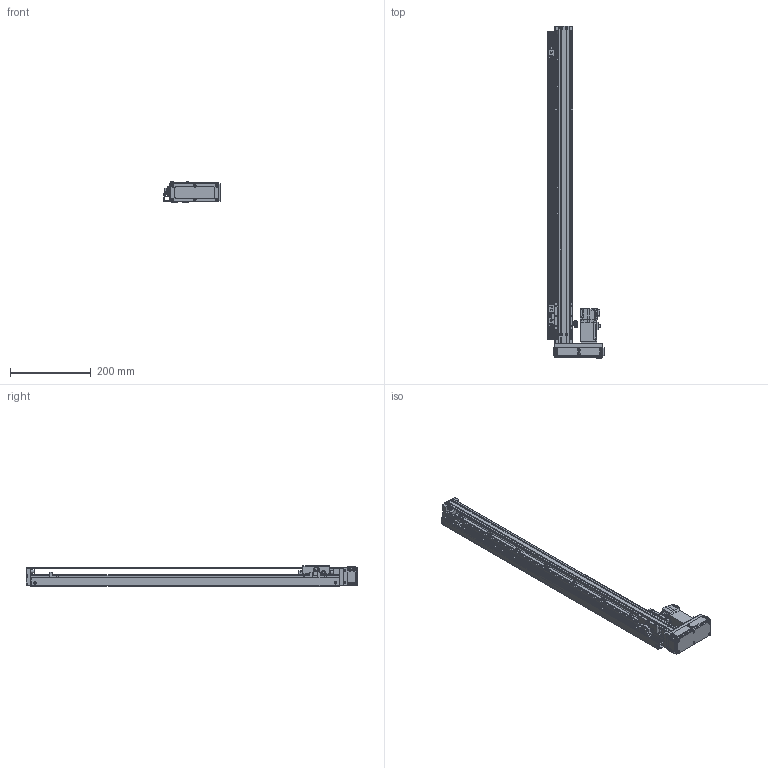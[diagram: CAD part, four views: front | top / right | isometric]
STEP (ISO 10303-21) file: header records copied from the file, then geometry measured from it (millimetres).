
FILE_DESCRIPTION(/* description */ ('MANUFACTURE'),/* implementation_level */ '2;1');
FILE_NAME(/* name */ '\\192.168.0.160\disk1\HAN SHIN Master\B-설계부문\C-표준\B-2024년\BC02-표준도면\+로봇 개선표준도면\표준 승인도 폴더 - 재작업\3D\HG45\병렬-R\HG45-R10-N-0650-L10.stp',/* time_stamp */ '2024-03-05T10:23:19+09:00',/* author */ ('User'),/* organization */ (''),/* preprocessor_version */ 'ST-DEVELOPER v18.1',/* originating_system */ 'Autodesk Inventor 2022',/* authorisation */ 'LIP');
FILE_SCHEMA (('AUTOMOTIVE_DESIGN { 1 0 10303 214 3 1 1 }'));
Products named in the file (21): HG45-L10-N-0500-R10 - 간소화; HR45 S BASE; HR45 REAR BLOCK; HR45 FRONT BLOCK; HR45 STOPPER; HR45 SENSOR RAIL; HC45 - TABLE (SFSR); HR45 UPCOVER-28mm; HR45 MOTOR PLATE 100W; hg-kr13_; 화살표; ESF1210 NUT; HR45 LR BELT COVER; HR45 ACRYL COVER(정면); HR45 ACRYL COVER(측면); HR45 ACRYL COVER(상하면); HC45 L,R MOTOR PLATE_MIR; HR45 SENSOR DOG; NIPPLE CAP(신규); hsr_ftht_A-M6F_grease_nipple_joint; EE_SX674A
Assembly tree (27 placements, depth 2):
  HG45-L10-N-0500-R10 - 간소화
    HR45 S BASE
    HR45 REAR BLOCK
    HR45 FRONT BLOCK
    HR45 STOPPER  x4
    HR45 SENSOR RAIL
    HC45 - TABLE (SFSR)
    HR45 UPCOVER-28mm
    HR45 MOTOR PLATE 100W
    hg-kr13_
    화살표  x2
    EE_SX674A  x3
    ESF1210 NUT
    HR45 LR BELT COVER
    HR45 ACRYL COVER(상하면)  x2
    HR45 ACRYL COVER(정면)
    HR45 ACRYL COVER(측면)
    HC45 L,R MOTOR PLATE_MIR
    HR45 SENSOR DOG
    NIPPLE CAP(신규)
    hsr_ftht_A-M6F_grease_nipple_joint
Bounding box: 139.5 x 824 x 50 mm (x, y, z)
Volume: 822531.2 mm3; surface area: 449970.8 mm2
Topology: 27 solids, 27 shells, 2350 faces, 6432 edges, 4224 vertices
Faces by surface type: plane 1672, cylinder 524, cone 127, bspline 13, sphere 8, torus 6
Full cylindrical faces by diameter (mm): 1 x1, 2.013 x6, 2.459 x74, 2.5 x4, 3 x11, 3.242 x28, 3.4 x36, 3.5 x21, 4 x13, 4.134 x1, 4.5 x22, 4.917 x2, 5.6 x3, 5.9 x2, 6 x20, 6.5 x6, 8 x17, 9 x4, 10 x1, 12 x1, 13 x1, 15 x1, 18 x1, 22 x2, 24 x1, 26 x1, 30 x2
Entity records: 73364 total; most frequent: CARTESIAN_POINT 14101, ORIENTED_EDGE 11984, DIRECTION 11434, EDGE_CURVE 5992, LINE 4700, VECTOR 4700, VERTEX_POINT 3977, AXIS2_PLACEMENT_3D 3367
